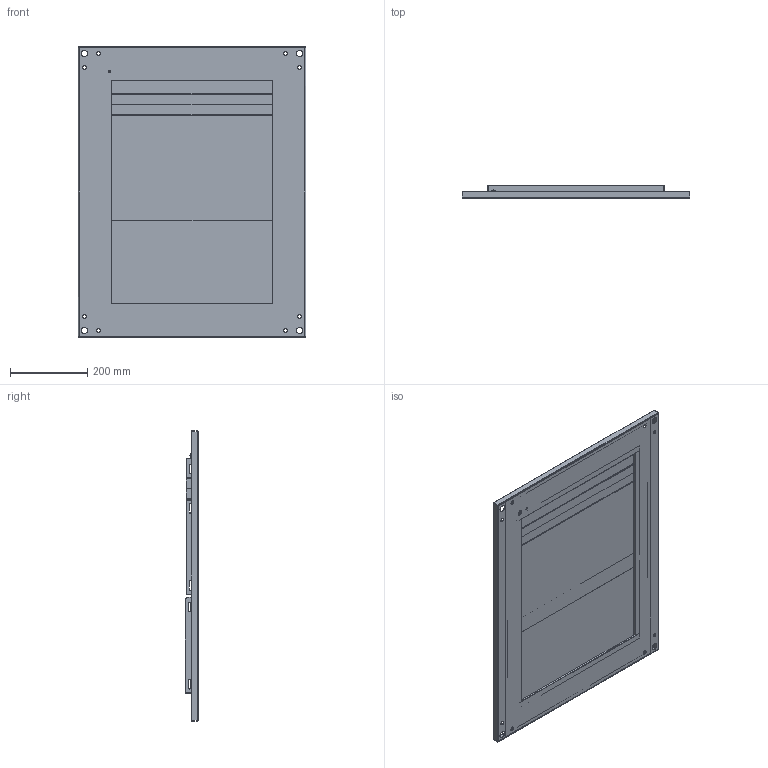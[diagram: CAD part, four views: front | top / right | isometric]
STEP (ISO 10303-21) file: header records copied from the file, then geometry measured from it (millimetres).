
FILE_DESCRIPTION (( 'STEP AP203' ), '1' );
FILE_NAME ('29799.step', '2013-09-13T09:34:45', ( '' ), ( '' ), 'SwSTEP 2.0', 'SolidWorks 2010', '' );
FILE_SCHEMA (( 'CONFIG_CONTROL_DESIGN' ));
Length unit declared in the file: inch
Products named in the file (12): 29799; 87939070_87939070; 89001805_89001805; 60100041_60100041; 87931527_87931527; 87931368_SLEEVE; 89001843_Side to side; 87939072_Front to back; 87939071; 87935839; 89101601; 89101606
Assembly tree (15 placements, depth 4):
  29799
    87935839  x2
    89101601
    89101606  x2
    87939070_87939070
      60100041_60100041
        87931527_87931527
        87931368_SLEEVE
      89001843_Side to side  x2
      87939072_Front to back  x2
      87939071
      89001805_89001805
Bounding box: 590.6 x 33.78 x 753.19 mm (x, y, z)
Volume: 1633601.9 mm3; surface area: 1406138.6 mm2
Topology: 13 solids, 13 shells, 354 faces, 847 edges, 524 vertices
Faces by surface type: plane 225, cylinder 110, bspline 13, cone 6
Entity records: 10013 total; most frequent: CARTESIAN_POINT 2172, DIRECTION 1354, ORIENTED_EDGE 1298, EDGE_CURVE 649, AXIS2_PLACEMENT_3D 456, VECTOR 442, LINE 442, VERTEX_POINT 402
